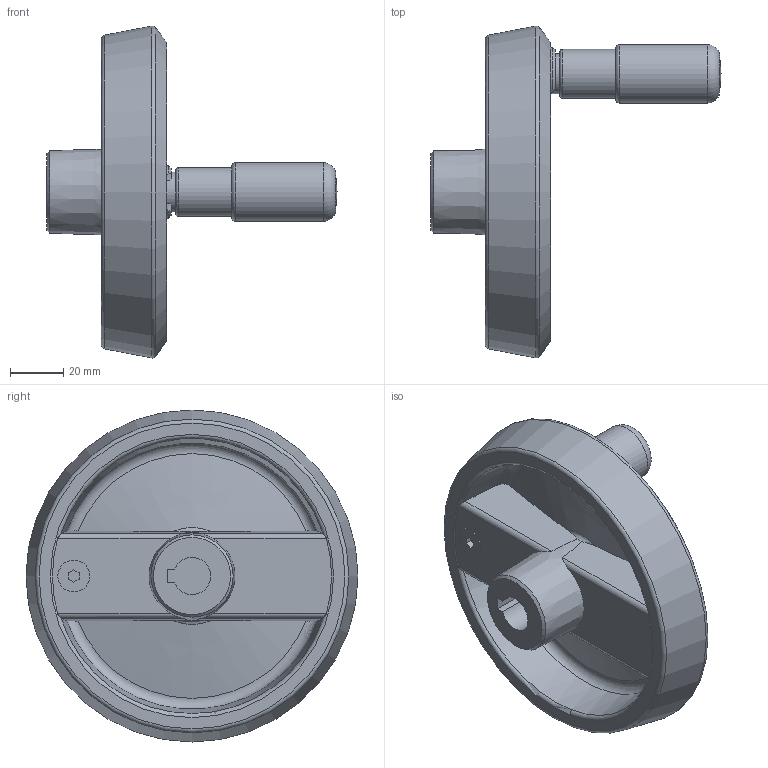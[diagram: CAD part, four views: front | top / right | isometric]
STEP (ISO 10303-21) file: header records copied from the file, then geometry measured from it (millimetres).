
FILE_DESCRIPTION( ( 'STEP AP203' ), '1' );
FILE_NAME( 'C:/Temp/Ganter_Step_05_03_2020/data/1_3/gn_923_7/gn_923_7_b/Handwheel with retractable handle GN 923.7-125-B14-R-SR (activated).stp', '2020-03-05T10:39:58', ( 'License CC BY-ND 4.0' ), ( 'CADENAS' ), ' ', 'PARTsolutions', ' ' );
FILE_SCHEMA( ( 'CONFIG_CONTROL_DESIGN' ) );
Length unit declared in the file: millimetre
Products named in the file (3): Handwheel with retractable handle GN 923.7-125-B14-R-SR (activated); _Umleggriff-Handrad GN 923.7-125-B14-R-SR-1; _Umleggriff-Handrad GN 923.7-125-B14-R-SR (90)-2
Assembly tree (2 placements, depth 2):
  Handwheel with retractable handle GN 923.7-125-B14-R-SR (activated)
    _Umleggriff-Handrad GN 923.7-125-B14-R-SR-1
    _Umleggriff-Handrad GN 923.7-125-B14-R-SR (90)-2
Bounding box: 109.2 x 125 x 125 mm (x, y, z)
Volume: 173383.8 mm3; surface area: 54334.6 mm2
Topology: 2 solids, 2 shells, 111 faces, 268 edges, 169 vertices
Faces by surface type: plane 47, cylinder 26, cone 15, torus 15, bspline 6, sphere 2
Full cylindrical faces by diameter (mm): 4 x2, 6 x1, 8 x1, 12 x1, 15 x1, 18.5 x1, 20 x1, 22 x1, 23 x2
Entity records: 3526 total; most frequent: CARTESIAN_POINT 994, DIRECTION 512, ORIENTED_EDGE 466, EDGE_CURVE 233, AXIS2_PLACEMENT_3D 215, VERTEX_POINT 163, EDGE_LOOP 149, FACE_OUTER_BOUND 129
